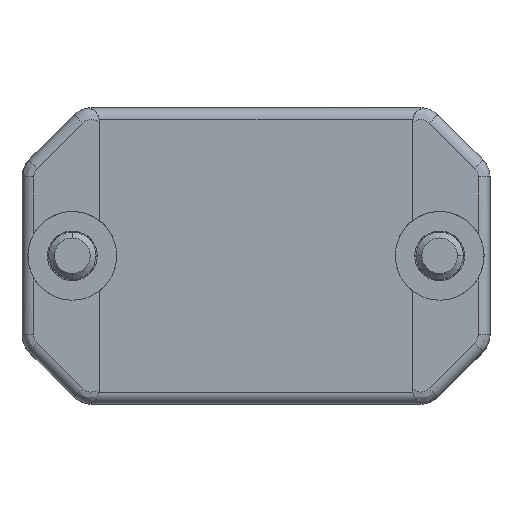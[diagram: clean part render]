
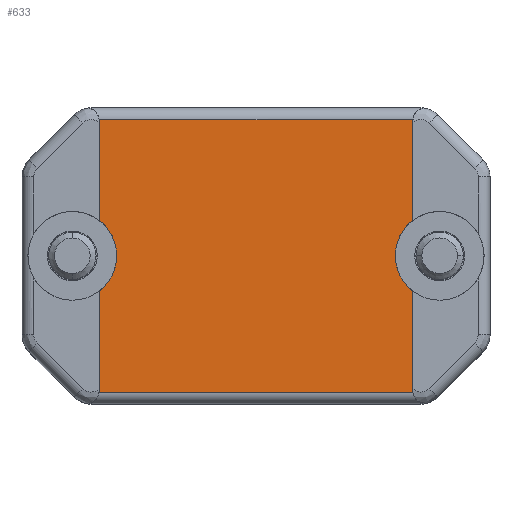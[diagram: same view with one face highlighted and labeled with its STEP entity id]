
A CAD part, top view. The second image highlights one B-rep face of the part: STEP entity #633.
In plain terms, the highlighted planar face has unit normal (0, 0, 1).
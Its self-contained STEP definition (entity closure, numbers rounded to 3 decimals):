
#45 = VECTOR ( 'NONE', #6601, 1000. ) ;
#159 = DIRECTION ( 'NONE',  ( 0., -1., 0. ) ) ;
#187 = DIRECTION ( 'NONE',  ( 0., 0., -1. ) ) ;
#341 = AXIS2_PLACEMENT_3D ( 'NONE', #4271, #368, #4931 ) ;
#368 = DIRECTION ( 'NONE',  ( 0., 0., -1. ) ) ;
#455 = LINE ( 'NONE', #7875, #7123 ) ;
#609 = CIRCLE ( 'NONE', #1566, 1. ) ;
#633 = ADVANCED_FACE ( 'NONE', ( #1912 ), #2676, .T. ) ;
#730 = VECTOR ( 'NONE', #1104, 1000. ) ;
#755 = CARTESIAN_POINT ( 'NONE',  ( 33.002, 24., 9. ) ) ;
#871 = VERTEX_POINT ( 'NONE', #2156 ) ;
#917 = CARTESIAN_POINT ( 'NONE',  ( 35.25, 12.5, 9. ) ) ;
#933 = CARTESIAN_POINT ( 'NONE',  ( 6.5, 0., 9. ) ) ;
#1104 = DIRECTION ( 'NONE',  ( 0., 1., 0. ) ) ;
#1179 = ORIENTED_EDGE ( 'NONE', *, *, #6120, .T. ) ;
#1192 = CARTESIAN_POINT ( 'NONE',  ( 6.5, 9.5, 9. ) ) ;
#1200 = CIRCLE ( 'NONE', #5233, 1. ) ;
#1278 = ORIENTED_EDGE ( 'NONE', *, *, #1709, .F. ) ;
#1292 = CARTESIAN_POINT ( 'NONE',  ( 5.5, 23.945, 9. ) ) ;
#1394 = CARTESIAN_POINT ( 'NONE',  ( 6.5, 1., 9. ) ) ;
#1434 = DIRECTION ( 'NONE',  ( 0., 0., 1. ) ) ;
#1560 = DIRECTION ( 'NONE',  ( 1., 0., 0. ) ) ;
#1566 = AXIS2_PLACEMENT_3D ( 'NONE', #5379, #1434, #6003 ) ;
#1672 = LINE ( 'NONE', #4352, #1874 ) ;
#1709 = EDGE_CURVE ( 'NONE', #1944, #2336, #2941, .T. ) ;
#1755 = VECTOR ( 'NONE', #6619, 1000. ) ;
#1822 = AXIS2_PLACEMENT_3D ( 'NONE', #917, #5490, #1560 ) ;
#1859 = CIRCLE ( 'NONE', #3976, 3.75 ) ;
#1874 = VECTOR ( 'NONE', #5632, 1000. ) ;
#1911 = ORIENTED_EDGE ( 'NONE', *, *, #3731, .T. ) ;
#1912 = FACE_OUTER_BOUND ( 'NONE', #2016, .T. ) ;
#1944 = VERTEX_POINT ( 'NONE', #6286 ) ;
#1961 = DIRECTION ( 'NONE',  ( 1., 0., 0. ) ) ;
#2016 = EDGE_LOOP ( 'NONE', ( #3425, #7718, #3138, #3237, #5491, #1278, #1179, #7280, #6015, #1911, #7421, #3096, #7669, #3034 ) ) ;
#2088 = CARTESIAN_POINT ( 'NONE',  ( 6.5, 0., 9. ) ) ;
#2156 = CARTESIAN_POINT ( 'NONE',  ( 6.5, 15.5, 9. ) ) ;
#2320 = CARTESIAN_POINT ( 'NONE',  ( 31.5, 12.5, 9. ) ) ;
#2324 = DIRECTION ( 'NONE',  ( 1., 0., 0. ) ) ;
#2336 = VERTEX_POINT ( 'NONE', #4968 ) ;
#2338 = VERTEX_POINT ( 'NONE', #5621 ) ;
#2362 = DIRECTION ( 'NONE',  ( 0., 0., 1. ) ) ;
#2664 = DIRECTION ( 'NONE',  ( 0., 0., 1. ) ) ;
#2676 = PLANE ( 'NONE',  #5540 ) ;
#2904 = AXIS2_PLACEMENT_3D ( 'NONE', #4088, #187, #4741 ) ;
#2941 = CIRCLE ( 'NONE', #5749, 1. ) ;
#2978 = CARTESIAN_POINT ( 'NONE',  ( 4.25, 12.5, 9. ) ) ;
#3029 = CIRCLE ( 'NONE', #4272, 1. ) ;
#3033 = DIRECTION ( 'NONE',  ( -1., 0., 0. ) ) ;
#3034 = ORIENTED_EDGE ( 'NONE', *, *, #6973, .T. ) ;
#3069 = VERTEX_POINT ( 'NONE', #755 ) ;
#3096 = ORIENTED_EDGE ( 'NONE', *, *, #7458, .T. ) ;
#3138 = ORIENTED_EDGE ( 'NONE', *, *, #3563, .T. ) ;
#3156 = CARTESIAN_POINT ( 'NONE',  ( 6.5, 23.945, 9. ) ) ;
#3232 = DIRECTION ( 'NONE',  ( 0., 0., 1. ) ) ;
#3237 = ORIENTED_EDGE ( 'NONE', *, *, #6185, .F. ) ;
#3288 = EDGE_CURVE ( 'NONE', #5967, #8214, #1859, .T. ) ;
#3425 = ORIENTED_EDGE ( 'NONE', *, *, #6056, .T. ) ;
#3454 = CARTESIAN_POINT ( 'NONE',  ( 6.498, 24., 9. ) ) ;
#3563 = EDGE_CURVE ( 'NONE', #8214, #4960, #4837, .T. ) ;
#3591 = CARTESIAN_POINT ( 'NONE',  ( 33., 15.5, 9. ) ) ;
#3611 = DIRECTION ( 'NONE',  ( 1., 0., 0. ) ) ;
#3731 = EDGE_CURVE ( 'NONE', #8040, #8059, #3791, .T. ) ;
#3791 = LINE ( 'NONE', #6931, #730 ) ;
#3976 = AXIS2_PLACEMENT_3D ( 'NONE', #2978, #7463, #3611 ) ;
#4088 = CARTESIAN_POINT ( 'NONE',  ( 35.25, 12.5, 9. ) ) ;
#4141 = CARTESIAN_POINT ( 'NONE',  ( 33., 9.5, 9. ) ) ;
#4252 = CARTESIAN_POINT ( 'NONE',  ( 33., 23.945, 9. ) ) ;
#4271 = CARTESIAN_POINT ( 'NONE',  ( 4.25, 12.5, 9. ) ) ;
#4272 = AXIS2_PLACEMENT_3D ( 'NONE', #7086, #3232, #7708 ) ;
#4352 = CARTESIAN_POINT ( 'NONE',  ( 33., 0., 9. ) ) ;
#4366 = EDGE_CURVE ( 'NONE', #5485, #4552, #1200, .T. ) ;
#4494 = EDGE_CURVE ( 'NONE', #3069, #8059, #609, .T. ) ;
#4504 = EDGE_CURVE ( 'NONE', #6825, #8085, #5427, .T. ) ;
#4552 = VERTEX_POINT ( 'NONE', #3454 ) ;
#4741 = DIRECTION ( 'NONE',  ( 1., 0., 0. ) ) ;
#4789 = CARTESIAN_POINT ( 'NONE',  ( 8., 12.5, 9. ) ) ;
#4837 = LINE ( 'NONE', #2088, #1755 ) ;
#4931 = DIRECTION ( 'NONE',  ( 1., 0., 0. ) ) ;
#4960 = VERTEX_POINT ( 'NONE', #5555 ) ;
#4968 = CARTESIAN_POINT ( 'NONE',  ( 33.002, 1., 9. ) ) ;
#5231 = LINE ( 'NONE', #1394, #45 ) ;
#5233 = AXIS2_PLACEMENT_3D ( 'NONE', #1292, #5857, #1961 ) ;
#5290 = CIRCLE ( 'NONE', #341, 3.75 ) ;
#5379 = CARTESIAN_POINT ( 'NONE',  ( 34., 23.945, 9. ) ) ;
#5427 = CIRCLE ( 'NONE', #2904, 3.75 ) ;
#5466 = CIRCLE ( 'NONE', #1822, 3.75 ) ;
#5485 = VERTEX_POINT ( 'NONE', #3156 ) ;
#5490 = DIRECTION ( 'NONE',  ( 0., 0., -1. ) ) ;
#5491 = ORIENTED_EDGE ( 'NONE', *, *, #7686, .T. ) ;
#5540 = AXIS2_PLACEMENT_3D ( 'NONE', #933, #2362, #2324 ) ;
#5555 = CARTESIAN_POINT ( 'NONE',  ( 6.5, 1.055, 9. ) ) ;
#5621 = CARTESIAN_POINT ( 'NONE',  ( 6.498, 1., 9. ) ) ;
#5632 = DIRECTION ( 'NONE',  ( 0., 1., 0. ) ) ;
#5749 = AXIS2_PLACEMENT_3D ( 'NONE', #6535, #2664, #7169 ) ;
#5857 = DIRECTION ( 'NONE',  ( 0., 0., 1. ) ) ;
#5967 = VERTEX_POINT ( 'NONE', #4789 ) ;
#6003 = DIRECTION ( 'NONE',  ( -1., 0., 0. ) ) ;
#6015 = ORIENTED_EDGE ( 'NONE', *, *, #7072, .T. ) ;
#6039 = VECTOR ( 'NONE', #3033, 1000. ) ;
#6056 = EDGE_CURVE ( 'NONE', #871, #5967, #5290, .T. ) ;
#6120 = EDGE_CURVE ( 'NONE', #1944, #6825, #1672, .T. ) ;
#6185 = EDGE_CURVE ( 'NONE', #2338, #4960, #3029, .T. ) ;
#6286 = CARTESIAN_POINT ( 'NONE',  ( 33., 1.055, 9. ) ) ;
#6535 = CARTESIAN_POINT ( 'NONE',  ( 34., 1.055, 9. ) ) ;
#6601 = DIRECTION ( 'NONE',  ( 1., 0., 0. ) ) ;
#6619 = DIRECTION ( 'NONE',  ( 0., -1., 0. ) ) ;
#6825 = VERTEX_POINT ( 'NONE', #4141 ) ;
#6931 = CARTESIAN_POINT ( 'NONE',  ( 33., 0., 9. ) ) ;
#6973 = EDGE_CURVE ( 'NONE', #5485, #871, #455, .T. ) ;
#7072 = EDGE_CURVE ( 'NONE', #8085, #8040, #5466, .T. ) ;
#7086 = CARTESIAN_POINT ( 'NONE',  ( 5.5, 1.055, 9. ) ) ;
#7123 = VECTOR ( 'NONE', #159, 1000. ) ;
#7169 = DIRECTION ( 'NONE',  ( 1., 0., 0. ) ) ;
#7280 = ORIENTED_EDGE ( 'NONE', *, *, #4504, .T. ) ;
#7421 = ORIENTED_EDGE ( 'NONE', *, *, #4494, .F. ) ;
#7458 = EDGE_CURVE ( 'NONE', #3069, #4552, #7706, .T. ) ;
#7463 = DIRECTION ( 'NONE',  ( 0., 0., -1. ) ) ;
#7669 = ORIENTED_EDGE ( 'NONE', *, *, #4366, .F. ) ;
#7686 = EDGE_CURVE ( 'NONE', #2338, #2336, #5231, .T. ) ;
#7706 = LINE ( 'NONE', #8104, #6039 ) ;
#7708 = DIRECTION ( 'NONE',  ( -1., 0., 0. ) ) ;
#7718 = ORIENTED_EDGE ( 'NONE', *, *, #3288, .T. ) ;
#7875 = CARTESIAN_POINT ( 'NONE',  ( 6.5, 0., 9. ) ) ;
#8040 = VERTEX_POINT ( 'NONE', #3591 ) ;
#8059 = VERTEX_POINT ( 'NONE', #4252 ) ;
#8085 = VERTEX_POINT ( 'NONE', #2320 ) ;
#8104 = CARTESIAN_POINT ( 'NONE',  ( 6.5, 24., 9. ) ) ;
#8214 = VERTEX_POINT ( 'NONE', #1192 ) ;
